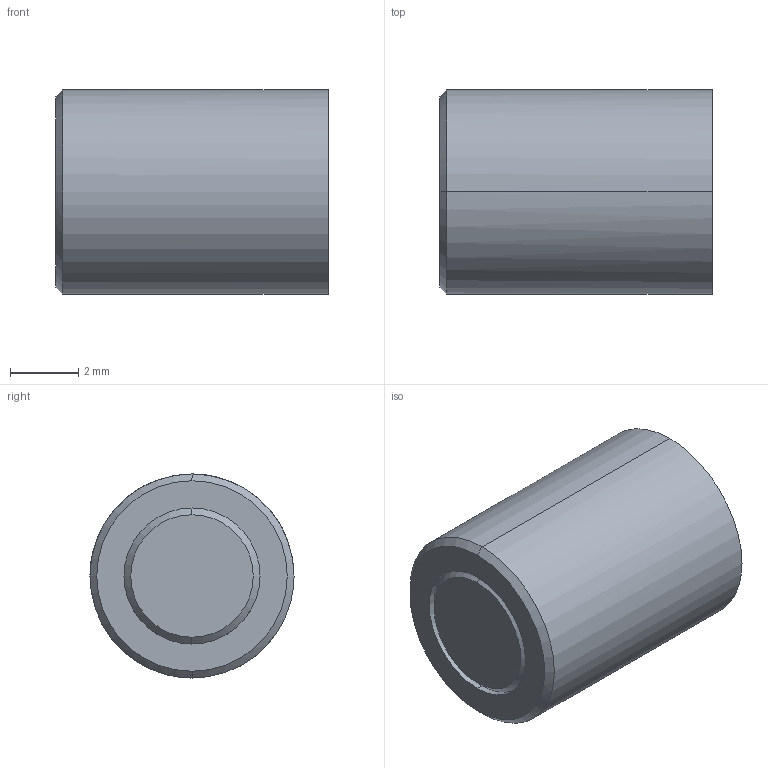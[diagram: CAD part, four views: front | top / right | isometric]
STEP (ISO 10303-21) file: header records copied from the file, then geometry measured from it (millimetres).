
FILE_DESCRIPTION(('CATIA V5 STEP Exchange'),'2;1');
FILE_NAME('C:\Users\Utente\Desktop\IO LAVORO\3D X SITO CF\X SITO\PLASTICA\D375\D375-6-A-DM-FA.stp','2021-03-26T14:53:34+00:00',('none'),('none'),'CATIA Version 5 Release 20 GA (IN-10)','CATIA V5 STEP AP203','none');
FILE_SCHEMA(('CONFIG_CONTROL_DESIGN'));
Length unit declared in the file: millimetre
Products named in the file (1): D375-6-A-DM-FA
Assembly tree (2 placements, depth 2):
  D375-6-A-DM-FA
    #58
    #6525
Bounding box: 8 x 6 x 6 mm (x, y, z)
Volume: 216.4 mm3; surface area: 405.9 mm2
Topology: 2 solids, 2 shells, 216 faces, 594 edges, 408 vertices
Faces by surface type: plane 135, cylinder 77, cone 4
Entity records: 7562 total; most frequent: CARTESIAN_POINT 2081, ORIENTED_EDGE 1188, DIRECTION 958, EDGE_CURVE 594, VERTEX_POINT 408, VECTOR 396, LINE 396, AXIS2_PLACEMENT_3D 343
